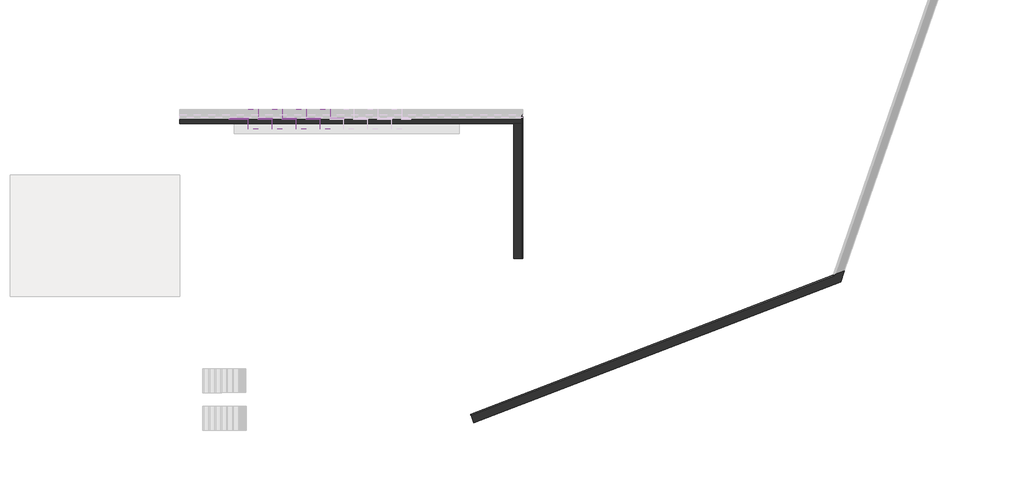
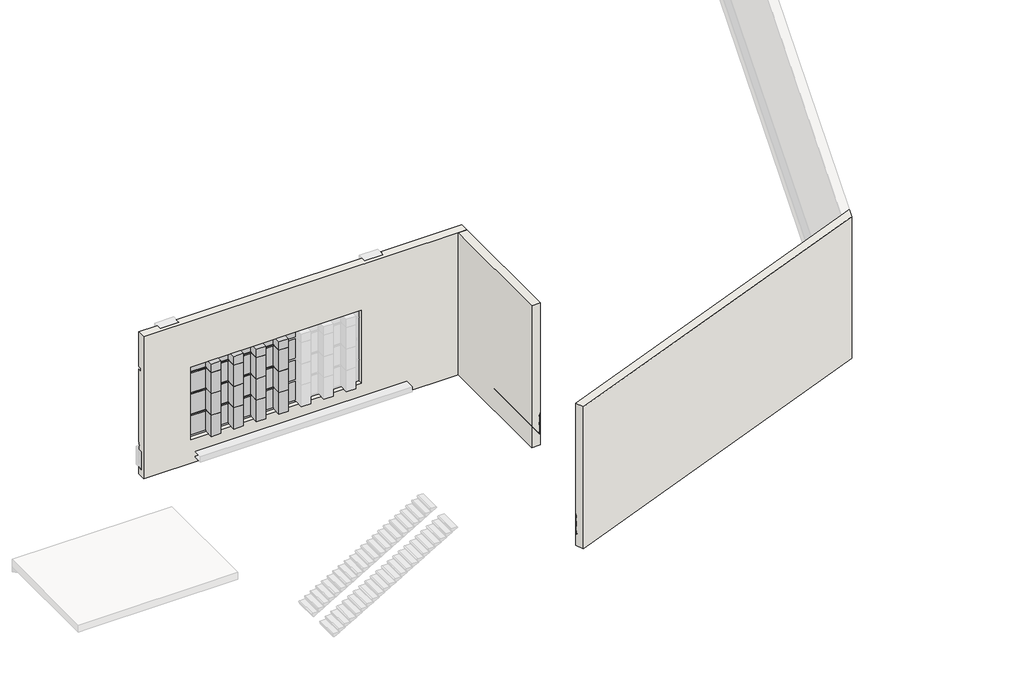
# One storey, part 1 of 3: 41 members, 20 plates, 3 walls, 2 proxies.
"""IFC4 building model written with IfcOpenShell, lengths in millimetres."""

from ifc_helpers import new_model, si_unit, point, frame, frame_2d, origin, place, context, project, spatial, polyline, circle_curve, ellipse_curve, trimmed, segment, composite_curve, outline, extrude, transform, mapped, element, save
from ifc_brep_helpers import plane_surface, cylinder_surface, revolved_surface, advanced_brep
from components import member_019d2a25, member_3923b022, member_2a5ef969, member_fb87e798, member_333024e2, member_bad90bd3, member_0539de59, member_1564d5d8, plate_5ed84ba8, plate_2f013cb5, plate_57f18dda, plate_4c5048e9, plate_0b036903, plate_1d454050

model = new_model("IFC4")

# Units and contexts
model_context = context("Model", 3, world=origin())
ifc_project = project(units=[si_unit("LENGTHUNIT", "METRE", prefix="MILLI")], contexts=[model_context])

# Site, building, storey
site = spatial("IfcSite", under=ifc_project)
building = spatial("IfcBuilding", under=site)
storey = spatial("IfcBuildingStorey", under=building, Name="Уровень 1", Elevation=0.0)

# Proxies
placement = place(None, origin())
element("IfcBuildingElementProxy", 1, Name="Reveals", at=placement, inside=storey, context=model_context, shape_type="AdvancedBrep", body=[
    advanced_brep(
    [(-4891.7017818, 8635.4936017, 1673.1169098), (-4832.5352251, 8694.6601583, 1800.0), (-4832.5352251, 8694.6601583, 600.0), (-4885.7580421, 8641.4373413, 751.8422279), (-4856.5316909, 8670.6636925, 959.7985223), (-4895.5850423, 8631.6103411, 1200.0), (-4858.120661, 8669.0747224, 1466.5729246), (-4891.7017818, 1464.6601583, 1673.1169098), (-4858.120661, 1464.6601583, 1466.5729246), (-4895.5850423, 1464.6601583, 1200.0), (-4856.5316909, 1464.6601583, 959.7985223), (-4885.7580421, 1464.6601583, 751.8422279), (-4832.5352251, 1464.6601583, 600.0), (-4832.5352251, 1464.6601583, 1800.0)],
    [
        (0, 1),
        (1, 2),
        (2, 3, ellipse_curve(frame((-4743.6392974, 8783.5560861, 716.4080451), z_axis=(-0.7071067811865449, 0.7071067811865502, 0.0), x_axis=(0.7071067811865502, 0.7071067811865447, 0.0)), 207.1391751, 146.4695154)),
        (3, 4),
        (4, 5),
        (5, 6),
        (6, 0),
        (7, 8),
        (8, 9),
        (9, 10),
        (10, 11),
        (11, 12, circle_curve(frame((-4743.6392974, 1464.6601583, 716.4080451), z_axis=(0.0, -1.0, 0.0), x_axis=(1.0, 0.0, 0.0)), 146.4695154)),
        (12, 13),
        (13, 7),
        (0, 7),
        (13, 1),
        (12, 2),
        (11, 3),
        (10, 4),
        (9, 5),
        (8, 6),
    ],
    [
        plane_surface(frame((-4832.5352251, 8694.6601583, 1504.8), z_axis=(-0.7071067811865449, 0.7071067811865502, 0.0), x_axis=(-0.7071067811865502, -0.7071067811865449, 0.0))),
        plane_surface(frame((-5432.5352251, 1464.6601583, 1200.0), z_axis=(0.0, -1.0, 0.0), x_axis=(0.0, 0.0, -1.0))),
        plane_surface(frame((-4891.7017818, 8635.4936017, 1673.1169098), z_axis=(-0.9063077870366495, 0.0, 0.42261826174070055), x_axis=(0.0, -1.0, 0.0))),
        plane_surface(frame((-4832.5352251, 8694.6601583, 1800.0), z_axis=(1.0, 0.0, 0.0), x_axis=(0.0, -1.0, 0.0))),
        cylinder_surface(frame((-4743.6392974, 8694.6601583, 716.4080451), z_axis=(0.0, 1.0, 0.0), x_axis=(1.0, 0.0, 0.0)), 146.4695154),
        plane_surface(frame((-4885.7580421, 8641.4373413, 751.8422279), z_axis=(-0.9902680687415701, 0.0, 0.13917310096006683), x_axis=(0.0, -1.0, 0.0))),
        plane_surface(frame((-4856.5316909, 8670.6636925, 959.7985223), z_axis=(-0.9870393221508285, 0.0, -0.16047858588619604), x_axis=(0.0, -1.0, 0.0))),
        plane_surface(frame((-4895.5850423, 8631.6103411, 1200.0), z_axis=(-0.9902680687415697, 0.0, 0.13917310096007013), x_axis=(0.0, -1.0, 0.0))),
        plane_surface(frame((-4858.120661, 8669.0747224, 1466.5729246), z_axis=(-0.987039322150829, 0.0, -0.16047858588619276), x_axis=(0.0, -1.0, 0.0))),
    ],
    [
        (0, [[1, 2, 3, 4, 5, 6, 7]]),
        (1, [[8, 9, 10, 11, 12, 13, 14]]),
        (2, [[-1, 15, -14, 16]]),
        (3, [[-2, -16, -13, 17]]),
        (4, [[-3, -17, -12, 18]]),
        (5, [[-4, -18, -11, 19]]),
        (6, [[-5, -19, -10, 20]]),
        (7, [[-6, -20, -9, 21]]),
        (8, [[-7, -21, -8, -15]]),
    ],
),
])
element("IfcBuildingElementProxy", 2, Name="Reveals", at=placement, inside=storey, context=model_context, shape_type="AdvancedBrep", body=[
    advanced_brep(
    [(-7439.5534189, -6410.9685449, 1673.1169098), (-7460.7568165, -6355.7318057, 1800.0), (-7460.7568165, -6355.7318057, 600.0), (-7441.6834647, -6405.4195859, 751.8422279), (-7452.1572522, -6378.1344365, 959.7985223), (-7438.1617828, -6414.5938809, 1200.0), (-7451.5878163, -6379.6178678, 1466.5729246), (10784.2530434, 584.4953374, 1673.1169098), (10757.5995852, 610.2342828, 1466.5729246), (10787.3352015, 581.518932, 1200.0), (10756.3384139, 611.4521818, 959.7985223), (10779.5354755, 589.0510397, 751.8422279), (10737.2923313, 629.8447699, 600.0), (10737.2923313, 629.8447699, 1800.0)],
    [
        (0, 1),
        (1, 2),
        (2, 3, circle_curve(frame((-7492.6142678, -6272.7403076, 716.4080451), z_axis=(-0.9335804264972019, -0.3583679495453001, 0.0), x_axis=(-0.3583679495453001, 0.9335804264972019, 0.0)), 146.4695154)),
        (3, 4),
        (4, 5),
        (5, 6),
        (6, 0),
        (7, 8),
        (8, 9),
        (9, 10),
        (10, 11),
        (11, 12, ellipse_curve(frame((10666.7353088, 697.9808946, 716.4080451), z_axis=(0.6946583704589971, 0.7193398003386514, 0.0), x_axis=(-0.7193398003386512, 0.6946583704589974, 0.0)), 161.611229, 146.4695154)),
        (12, 13),
        (13, 7),
        (0, 7),
        (13, 1),
        (12, 2),
        (11, 3),
        (10, 4),
        (9, 5),
        (8, 6),
    ],
    [
        plane_surface(frame((-7460.7568165, -6355.7318057, 1800.0), z_axis=(-0.9335804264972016, -0.35836794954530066, 0.0), x_axis=(0.35836794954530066, -0.9335804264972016, 0.0))),
        plane_surface(frame((10737.2923313, 629.8447699, 895.2), z_axis=(0.6946583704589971, 0.7193398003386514, 0.0), x_axis=(-0.7193398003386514, 0.6946583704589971, 0.0))),
        plane_surface(frame((-7439.5534189, -6410.9685449, 1673.1169098), z_axis=(0.3247916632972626, -0.8461112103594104, 0.42261826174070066), x_axis=(0.9335804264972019, 0.3583679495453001, 0.0))),
        plane_surface(frame((-7460.7568165, -6355.7318057, 1800.0), z_axis=(-0.35836794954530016, 0.9335804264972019, 0.0), x_axis=(0.9335804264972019, 0.35836794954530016, 0.0))),
        cylinder_surface(frame((-7492.6142678, -6272.7403076, 716.4080451), z_axis=(-0.9335804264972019, -0.3583679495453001, 0.0), x_axis=(-0.3583679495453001, 0.9335804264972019, 0.0)), 146.4695154),
        plane_surface(frame((-7441.6834647, -6405.4195859, 751.8422279), z_axis=(0.35488033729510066, -0.9244948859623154, 0.13917310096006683), x_axis=(0.9335804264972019, 0.3583679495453, 0.0))),
        plane_surface(frame((-7452.1572522, -6378.1344365, 959.7985223), z_axis=(0.3537232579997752, -0.9214805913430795, -0.16047858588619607), x_axis=(0.9335804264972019, 0.3583679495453, 0.0))),
        plane_surface(frame((-7438.1617828, -6414.5938809, 1200.0), z_axis=(0.3548803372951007, -0.924494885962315, 0.13917310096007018), x_axis=(0.9335804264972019, 0.3583679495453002, 0.0))),
        plane_surface(frame((-7451.5878163, -6379.6178678, 1466.5729246), z_axis=(0.3537232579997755, -0.9214805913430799, -0.16047858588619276), x_axis=(0.9335804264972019, 0.3583679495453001, 0.0))),
    ],
    [
        (0, [[1, 2, 3, 4, 5, 6, 7]]),
        (1, [[8, 9, 10, 11, 12, 13, 14]]),
        (2, [[-1, 15, -14, 16]]),
        (3, [[-2, -16, -13, 17]]),
        (4, [[-3, -17, -12, 18]]),
        (5, [[-4, -18, -11, 19]]),
        (6, [[-5, -19, -10, 20]]),
        (7, [[-6, -20, -9, 21]]),
        (8, [[-7, -21, -8, -15]]),
    ],
),
])

# Members
member_shape = member_019d2a25(model_context)
element("IfcMember", 3, ObjectType="Прямоугольный импост : 50 мм x 65 мм", at=placement, inside=storey, context=model_context, shape_type="MappedRepresentation", body=[
    mapped(member_shape, transform((-19562.5352251, 8464.6601583, 2541.6457957), x_axis=(-1.0, 0.0, 0.0), y_axis=(0.0, -1.0, 0.0), z_axis=(0.0, 0.0, 1.0))),
])
element("IfcMember", 4, ObjectType="Прямоугольный импост : 50 мм x 65 мм", at=placement, inside=storey, context=model_context, shape_type="MappedRepresentation", body=[
    mapped(member_shape, transform((-19562.5352251, 8464.6601583, 3741.6457957), x_axis=(-1.0, 0.0, 0.0), y_axis=(0.0, -1.0, 0.0), z_axis=(0.0, 0.0, 1.0))),
])
element("IfcMember", 5, ObjectType="Прямоугольный импост : 50 мм x 65 мм", at=placement, inside=storey, context=model_context, shape_type="MappedRepresentation", body=[
    mapped(member_shape, transform((-19562.5352251, 8464.6601583, 4941.6457957), x_axis=(-1.0, 0.0, 0.0), y_axis=(0.0, -1.0, 0.0), z_axis=(0.0, 0.0, 1.0))),
])
member_2_shape = member_3923b022(model_context)
element("IfcMember", 6, ObjectType="Прямоугольный импост : 50 мм x 65 мм", at=placement, inside=storey, context=model_context, shape_type="MappedRepresentation", body=[
    mapped(member_2_shape, transform((-19562.5352251, 8464.6601583, 5429.8819034), x_axis=(-1.0, 0.0, 0.0), y_axis=(0.0, -1.0, 0.0), z_axis=(0.0, 0.0, 1.0))),
])
member_3_shape = member_2a5ef969(model_context)
element("IfcMember", 7, ObjectType="Импост круглого сечения : Радиус 25 мм 2", at=placement, inside=storey, context=model_context, shape_type="MappedRepresentation", body=[
    mapped(member_3_shape, transform((-18362.5352248, 8464.6601583, 1341.6457957), x_axis=(1.0, 0.0, 0.0), y_axis=(0.0, -1.0, 0.0), z_axis=(0.0, 0.0, -1.0))),
])
element("IfcMember", 8, ObjectType="Импост круглого сечения : Радиус 25 мм 2", at=placement, inside=storey, context=model_context, shape_type="MappedRepresentation", body=[
    mapped(member_3_shape, transform((-17162.5352248, 8464.6601583, 1341.6457957), x_axis=(1.0, 0.0, 0.0), y_axis=(0.0, -1.0, 0.0), z_axis=(0.0, 0.0, -1.0))),
])
element("IfcMember", 9, ObjectType="Импост круглого сечения : Радиус 25 мм 2", at=placement, inside=storey, context=model_context, shape_type="MappedRepresentation", body=[
    mapped(member_3_shape, transform((-15962.5352248, 8464.6601583, 1341.6457957), x_axis=(1.0, 0.0, 0.0), y_axis=(0.0, -1.0, 0.0), z_axis=(0.0, 0.0, -1.0))),
])
element("IfcMember", 10, ObjectType="Импост круглого сечения : Радиус 25 мм 2", at=placement, inside=storey, context=model_context, shape_type="MappedRepresentation", body=[
    mapped(member_3_shape, transform((-14762.5352248, 8464.6601583, 1341.6457957), x_axis=(1.0, 0.0, 0.0), y_axis=(0.0, -1.0, 0.0), z_axis=(0.0, 0.0, -1.0))),
])
element("IfcMember", 11, ObjectType="Импост круглого сечения : Радиус 25 мм 2", at=placement, inside=storey, context=model_context, shape_type="MappedRepresentation", body=[
    mapped(member_3_shape, transform((-18362.5352248, 8464.6601583, 2541.6457957), x_axis=(1.0, 0.0, 0.0), y_axis=(0.0, -1.0, 0.0), z_axis=(0.0, 0.0, -1.0))),
])
element("IfcMember", 12, ObjectType="Импост круглого сечения : Радиус 25 мм 2", at=placement, inside=storey, context=model_context, shape_type="MappedRepresentation", body=[
    mapped(member_3_shape, transform((-17162.5352248, 8464.6601583, 2541.6457957), x_axis=(1.0, 0.0, 0.0), y_axis=(0.0, -1.0, 0.0), z_axis=(0.0, 0.0, -1.0))),
])
element("IfcMember", 13, ObjectType="Импост круглого сечения : Радиус 25 мм 2", at=placement, inside=storey, context=model_context, shape_type="MappedRepresentation", body=[
    mapped(member_3_shape, transform((-15962.5352248, 8464.6601583, 2541.6457957), x_axis=(1.0, 0.0, 0.0), y_axis=(0.0, -1.0, 0.0), z_axis=(0.0, 0.0, -1.0))),
])
element("IfcMember", 14, ObjectType="Импост круглого сечения : Радиус 25 мм 2", at=placement, inside=storey, context=model_context, shape_type="MappedRepresentation", body=[
    mapped(member_3_shape, transform((-14762.5352248, 8464.6601583, 2541.6457957), x_axis=(1.0, 0.0, 0.0), y_axis=(0.0, -1.0, 0.0), z_axis=(0.0, 0.0, -1.0))),
])
element("IfcMember", 15, ObjectType="Импост круглого сечения : Радиус 25 мм 2", at=placement, inside=storey, context=model_context, shape_type="MappedRepresentation", body=[
    mapped(member_3_shape, transform((-18362.5352248, 8464.6601583, 3741.6457957), x_axis=(1.0, 0.0, 0.0), y_axis=(0.0, -1.0, 0.0), z_axis=(0.0, 0.0, -1.0))),
])
element("IfcMember", 16, ObjectType="Импост круглого сечения : Радиус 25 мм 2", at=placement, inside=storey, context=model_context, shape_type="MappedRepresentation", body=[
    mapped(member_3_shape, transform((-17162.5352248, 8464.6601583, 3741.6457957), x_axis=(1.0, 0.0, 0.0), y_axis=(0.0, -1.0, 0.0), z_axis=(0.0, 0.0, -1.0))),
])
element("IfcMember", 17, ObjectType="Импост круглого сечения : Радиус 25 мм 2", at=placement, inside=storey, context=model_context, shape_type="MappedRepresentation", body=[
    mapped(member_3_shape, transform((-15962.5352248, 8464.6601583, 3741.6457957), x_axis=(1.0, 0.0, 0.0), y_axis=(0.0, -1.0, 0.0), z_axis=(0.0, 0.0, -1.0))),
])
element("IfcMember", 18, ObjectType="Импост круглого сечения : Радиус 25 мм 2", at=placement, inside=storey, context=model_context, shape_type="MappedRepresentation", body=[
    mapped(member_3_shape, transform((-14762.5352248, 8464.6601583, 3741.6457957), x_axis=(1.0, 0.0, 0.0), y_axis=(0.0, -1.0, 0.0), z_axis=(0.0, 0.0, -1.0))),
])
member_4_shape = member_fb87e798(model_context)
element("IfcMember", 19, ObjectType="Импост круглого сечения : Радиус 25 мм 2", at=placement, inside=storey, context=model_context, shape_type="MappedRepresentation", body=[
    mapped(member_4_shape, transform((-18362.5352248, 8464.6601583, 4941.6457957), x_axis=(1.0, 0.0, 0.0), y_axis=(0.0, -1.0, 0.0), z_axis=(0.0, 0.0, -1.0))),
])
element("IfcMember", 20, ObjectType="Импост круглого сечения : Радиус 25 мм 2", at=placement, inside=storey, context=model_context, shape_type="MappedRepresentation", body=[
    mapped(member_4_shape, transform((-17162.5352248, 8464.6601583, 4941.6457957), x_axis=(1.0, 0.0, 0.0), y_axis=(0.0, -1.0, 0.0), z_axis=(0.0, 0.0, -1.0))),
])
element("IfcMember", 21, ObjectType="Импост круглого сечения : Радиус 25 мм 2", at=placement, inside=storey, context=model_context, shape_type="MappedRepresentation", body=[
    mapped(member_4_shape, transform((-15962.5352248, 8464.6601583, 4941.6457957), x_axis=(1.0, 0.0, 0.0), y_axis=(0.0, -1.0, 0.0), z_axis=(0.0, 0.0, -1.0))),
])
element("IfcMember", 22, ObjectType="Импост круглого сечения : Радиус 25 мм 2", at=placement, inside=storey, context=model_context, shape_type="MappedRepresentation", body=[
    mapped(member_4_shape, transform((-14762.5352248, 8464.6601583, 4941.6457957), x_axis=(1.0, 0.0, 0.0), y_axis=(0.0, -1.0, 0.0), z_axis=(0.0, 0.0, -1.0))),
])
member_5_shape = member_333024e2(model_context)
element("IfcMember", 23, ObjectType="Импост круглого сечения : Радиус 25 мм", at=placement, inside=storey, context=model_context, shape_type="MappedRepresentation", body=[
    mapped(member_5_shape, transform((-18612.5352248, 8464.6601583, 5429.8819034), x_axis=(0.0, 0.0, 1.0), y_axis=(0.0, -1.0, 0.0), z_axis=(1.0, 0.0, 0.0))),
])
member_6_shape = member_bad90bd3(model_context)
element("IfcMember", 24, ObjectType="Импост круглого сечения : Радиус 25 мм", at=placement, inside=storey, context=model_context, shape_type="MappedRepresentation", body=[
    mapped(member_6_shape, transform((-17412.5352248, 8464.6601583, 5429.8819034), x_axis=(0.0, 0.0, 1.0), y_axis=(0.0, -1.0, 0.0), z_axis=(1.0, 0.0, 0.0))),
])
element("IfcMember", 25, ObjectType="Импост круглого сечения : Радиус 25 мм", at=placement, inside=storey, context=model_context, shape_type="MappedRepresentation", body=[
    mapped(member_6_shape, transform((-16212.5352248, 8464.6601583, 5429.8819034), x_axis=(0.0, 0.0, 1.0), y_axis=(0.0, -1.0, 0.0), z_axis=(1.0, 0.0, 0.0))),
])
element("IfcMember", 26, ObjectType="Импост круглого сечения : Радиус 25 мм", at=placement, inside=storey, context=model_context, shape_type="MappedRepresentation", body=[
    mapped(member_6_shape, transform((-15012.5352248, 8464.6601583, 5429.8819034), x_axis=(0.0, 0.0, 1.0), y_axis=(0.0, -1.0, 0.0), z_axis=(1.0, 0.0, 0.0))),
])
element("IfcMember", 27, ObjectType="Импост круглого сечения : Радиус 25 мм", at=placement, inside=storey, context=model_context, shape_type="MappedRepresentation", body=[
    mapped(member_5_shape, transform((-19512.5352251, 8464.6601583, 1341.6457957), x_axis=(0.0, 0.0, -1.0), y_axis=(0.0, -1.0, 0.0), z_axis=(-1.0, 0.0, 0.0))),
])
element("IfcMember", 28, ObjectType="Импост круглого сечения : Радиус 25 мм", at=placement, inside=storey, context=model_context, shape_type="MappedRepresentation", body=[
    mapped(member_6_shape, transform((-18112.5352248, 8464.6601583, 1341.6457957), x_axis=(0.0, 0.0, -1.0), y_axis=(0.0, -1.0, 0.0), z_axis=(-1.0, 0.0, 0.0))),
])
element("IfcMember", 29, ObjectType="Импост круглого сечения : Радиус 25 мм", at=placement, inside=storey, context=model_context, shape_type="MappedRepresentation", body=[
    mapped(member_6_shape, transform((-16912.5352248, 8464.6601583, 1341.6457957), x_axis=(0.0, 0.0, -1.0), y_axis=(0.0, -1.0, 0.0), z_axis=(-1.0, 0.0, 0.0))),
])
element("IfcMember", 30, ObjectType="Импост круглого сечения : Радиус 25 мм", at=placement, inside=storey, context=model_context, shape_type="MappedRepresentation", body=[
    mapped(member_6_shape, transform((-15712.5352248, 8464.6601583, 1341.6457957), x_axis=(0.0, 0.0, -1.0), y_axis=(0.0, -1.0, 0.0), z_axis=(-1.0, 0.0, 0.0))),
])
element("IfcMember", 31, ObjectType="Импост круглого сечения : Радиус 25 мм", at=placement, inside=storey, context=model_context, shape_type="MappedRepresentation", body=[
    mapped(member_6_shape, transform((-14512.5352248, 8464.6601583, 1341.6457957), x_axis=(0.0, 0.0, -1.0), y_axis=(0.0, -1.0, 0.0), z_axis=(-1.0, 0.0, 0.0))),
])
member_7_shape = member_0539de59(model_context)
element("IfcMember", 32, ObjectType="Прямоугольный импост : 50 мм x 65 мм", at=placement, inside=storey, context=model_context, shape_type="MappedRepresentation", body=[
    mapped(member_7_shape, transform((-18612.5352248, 8464.6601583, 2541.6457957), x_axis=(0.0, 0.0, 1.0), y_axis=(0.0, -1.0, 0.0), z_axis=(1.0, 0.0, 0.0))),
])
element("IfcMember", 33, ObjectType="Прямоугольный импост : 50 мм x 65 мм", at=placement, inside=storey, context=model_context, shape_type="MappedRepresentation", body=[
    mapped(member_7_shape, transform((-18612.5352248, 8464.6601583, 3741.6457957), x_axis=(0.0, 0.0, 1.0), y_axis=(0.0, -1.0, 0.0), z_axis=(1.0, 0.0, 0.0))),
])
element("IfcMember", 34, ObjectType="Прямоугольный импост : 50 мм x 65 мм", at=placement, inside=storey, context=model_context, shape_type="MappedRepresentation", body=[
    mapped(member_7_shape, transform((-18612.5352248, 8464.6601583, 4941.6457957), x_axis=(0.0, 0.0, 1.0), y_axis=(0.0, -1.0, 0.0), z_axis=(1.0, 0.0, 0.0))),
])
member_8_shape = member_1564d5d8(model_context)
element("IfcMember", 35, ObjectType="Прямоугольный импост : 50 мм x 65 мм", at=placement, inside=storey, context=model_context, shape_type="MappedRepresentation", body=[
    mapped(member_8_shape, transform((-17412.5352248, 8464.6601583, 2541.6457957), x_axis=(0.0, 0.0, 1.0), y_axis=(0.0, -1.0, 0.0), z_axis=(1.0, 0.0, 0.0))),
])
element("IfcMember", 36, ObjectType="Прямоугольный импост : 50 мм x 65 мм", at=placement, inside=storey, context=model_context, shape_type="MappedRepresentation", body=[
    mapped(member_8_shape, transform((-16212.5352248, 8464.6601583, 2541.6457957), x_axis=(0.0, 0.0, 1.0), y_axis=(0.0, -1.0, 0.0), z_axis=(1.0, 0.0, 0.0))),
])
element("IfcMember", 37, ObjectType="Прямоугольный импост : 50 мм x 65 мм", at=placement, inside=storey, context=model_context, shape_type="MappedRepresentation", body=[
    mapped(member_8_shape, transform((-15012.5352248, 8464.6601583, 2541.6457957), x_axis=(0.0, 0.0, 1.0), y_axis=(0.0, -1.0, 0.0), z_axis=(1.0, 0.0, 0.0))),
])
element("IfcMember", 38, ObjectType="Прямоугольный импост : 50 мм x 65 мм", at=placement, inside=storey, context=model_context, shape_type="MappedRepresentation", body=[
    mapped(member_8_shape, transform((-17412.5352248, 8464.6601583, 3741.6457957), x_axis=(0.0, 0.0, 1.0), y_axis=(0.0, -1.0, 0.0), z_axis=(1.0, 0.0, 0.0))),
])
element("IfcMember", 39, ObjectType="Прямоугольный импост : 50 мм x 65 мм", at=placement, inside=storey, context=model_context, shape_type="MappedRepresentation", body=[
    mapped(member_8_shape, transform((-16212.5352248, 8464.6601583, 3741.6457957), x_axis=(0.0, 0.0, 1.0), y_axis=(0.0, -1.0, 0.0), z_axis=(1.0, 0.0, 0.0))),
])
element("IfcMember", 40, ObjectType="Прямоугольный импост : 50 мм x 65 мм", at=placement, inside=storey, context=model_context, shape_type="MappedRepresentation", body=[
    mapped(member_8_shape, transform((-15012.5352248, 8464.6601583, 3741.6457957), x_axis=(0.0, 0.0, 1.0), y_axis=(0.0, -1.0, 0.0), z_axis=(1.0, 0.0, 0.0))),
])
element("IfcMember", 41, ObjectType="Прямоугольный импост : 50 мм x 65 мм", at=placement, inside=storey, context=model_context, shape_type="MappedRepresentation", body=[
    mapped(member_8_shape, transform((-17412.5352248, 8464.6601583, 4941.6457957), x_axis=(0.0, 0.0, 1.0), y_axis=(0.0, -1.0, 0.0), z_axis=(1.0, 0.0, 0.0))),
])
element("IfcMember", 42, ObjectType="Прямоугольный импост : 50 мм x 65 мм", at=placement, inside=storey, context=model_context, shape_type="MappedRepresentation", body=[
    mapped(member_8_shape, transform((-16212.5352248, 8464.6601583, 4941.6457957), x_axis=(0.0, 0.0, 1.0), y_axis=(0.0, -1.0, 0.0), z_axis=(1.0, 0.0, 0.0))),
])
element("IfcMember", 43, ObjectType="Прямоугольный импост : 50 мм x 65 мм", at=placement, inside=storey, context=model_context, shape_type="MappedRepresentation", body=[
    mapped(member_8_shape, transform((-15012.5352248, 8464.6601583, 4941.6457957), x_axis=(0.0, 0.0, 1.0), y_axis=(0.0, -1.0, 0.0), z_axis=(1.0, 0.0, 0.0))),
])

# Plates
plate_shape = plate_5ed84ba8(model_context)
element("IfcPlate", 44, ObjectType="Системная панель : С остеклением", at=placement, inside=storey, context=model_context, shape_type="MappedRepresentation", body=[
    mapped(plate_shape, transform((-19062.535225, 8464.6601583, 1341.6457957), x_axis=(1.0, 0.0, 0.0), y_axis=(0.0, 1.0, 0.0), z_axis=(0.0, 0.0, 1.0))),
])
plate_2_shape = plate_2f013cb5(model_context)
element("IfcPlate", 45, ObjectType="Системная панель : С остеклением", at=placement, inside=storey, context=model_context, shape_type="MappedRepresentation", body=[
    mapped(plate_2_shape, transform((-17762.5352248, 8464.6601583, 1341.6457957), x_axis=(1.0, 0.0, 0.0), y_axis=(0.0, 1.0, 0.0), z_axis=(0.0, 0.0, 1.0))),
])
element("IfcPlate", 46, ObjectType="Системная панель : С остеклением", at=placement, inside=storey, context=model_context, shape_type="MappedRepresentation", body=[
    mapped(plate_2_shape, transform((-16562.5352248, 8464.6601583, 1341.6457957), x_axis=(1.0, 0.0, 0.0), y_axis=(0.0, 1.0, 0.0), z_axis=(0.0, 0.0, 1.0))),
])
element("IfcPlate", 47, ObjectType="Системная панель : С остеклением", at=placement, inside=storey, context=model_context, shape_type="MappedRepresentation", body=[
    mapped(plate_2_shape, transform((-15362.5352248, 8464.6601583, 1341.6457957), x_axis=(1.0, 0.0, 0.0), y_axis=(0.0, 1.0, 0.0), z_axis=(0.0, 0.0, 1.0))),
])
element("IfcPlate", 48, ObjectType="Системная панель : С остеклением", at=placement, inside=storey, context=model_context, shape_type="MappedRepresentation", body=[
    mapped(plate_2_shape, transform((-14162.5352248, 8464.6601583, 1341.6457957), x_axis=(1.0, 0.0, 0.0), y_axis=(0.0, 1.0, 0.0), z_axis=(0.0, 0.0, 1.0))),
])
plate_3_shape = plate_57f18dda(model_context)
element("IfcPlate", 49, ObjectType="Системная панель : С остеклением", at=placement, inside=storey, context=model_context, shape_type="MappedRepresentation", body=[
    mapped(plate_3_shape, transform((-19062.535225, 8464.6601583, 2566.6457957), x_axis=(1.0, 0.0, 0.0), y_axis=(0.0, 1.0, 0.0), z_axis=(0.0, 0.0, 1.0))),
])
element("IfcPlate", 50, ObjectType="Системная панель : С остеклением", at=placement, inside=storey, context=model_context, shape_type="MappedRepresentation", body=[
    mapped(plate_3_shape, transform((-19062.535225, 8464.6601583, 3766.6457957), x_axis=(1.0, 0.0, 0.0), y_axis=(0.0, 1.0, 0.0), z_axis=(0.0, 0.0, 1.0))),
])
plate_4_shape = plate_4c5048e9(model_context)
element("IfcPlate", 51, ObjectType="Системная панель : С остеклением", at=placement, inside=storey, context=model_context, shape_type="MappedRepresentation", body=[
    mapped(plate_4_shape, transform((-17762.5352248, 8464.6601583, 2566.6457957), x_axis=(1.0, 0.0, 0.0), y_axis=(0.0, 1.0, 0.0), z_axis=(0.0, 0.0, 1.0))),
])
element("IfcPlate", 52, ObjectType="Системная панель : С остеклением", at=placement, inside=storey, context=model_context, shape_type="MappedRepresentation", body=[
    mapped(plate_4_shape, transform((-16562.5352248, 8464.6601583, 2566.6457957), x_axis=(1.0, 0.0, 0.0), y_axis=(0.0, 1.0, 0.0), z_axis=(0.0, 0.0, 1.0))),
])
element("IfcPlate", 53, ObjectType="Системная панель : С остеклением", at=placement, inside=storey, context=model_context, shape_type="MappedRepresentation", body=[
    mapped(plate_4_shape, transform((-15362.5352248, 8464.6601583, 2566.6457957), x_axis=(1.0, 0.0, 0.0), y_axis=(0.0, 1.0, 0.0), z_axis=(0.0, 0.0, 1.0))),
])
element("IfcPlate", 54, ObjectType="Системная панель : С остеклением", at=placement, inside=storey, context=model_context, shape_type="MappedRepresentation", body=[
    mapped(plate_4_shape, transform((-14162.5352248, 8464.6601583, 2566.6457957), x_axis=(1.0, 0.0, 0.0), y_axis=(0.0, 1.0, 0.0), z_axis=(0.0, 0.0, 1.0))),
])
element("IfcPlate", 55, ObjectType="Системная панель : С остеклением", at=placement, inside=storey, context=model_context, shape_type="MappedRepresentation", body=[
    mapped(plate_4_shape, transform((-17762.5352248, 8464.6601583, 3766.6457957), x_axis=(1.0, 0.0, 0.0), y_axis=(0.0, 1.0, 0.0), z_axis=(0.0, 0.0, 1.0))),
])
element("IfcPlate", 56, ObjectType="Системная панель : С остеклением", at=placement, inside=storey, context=model_context, shape_type="MappedRepresentation", body=[
    mapped(plate_4_shape, transform((-16562.5352248, 8464.6601583, 3766.6457957), x_axis=(1.0, 0.0, 0.0), y_axis=(0.0, 1.0, 0.0), z_axis=(0.0, 0.0, 1.0))),
])
element("IfcPlate", 57, ObjectType="Системная панель : С остеклением", at=placement, inside=storey, context=model_context, shape_type="MappedRepresentation", body=[
    mapped(plate_4_shape, transform((-15362.5352248, 8464.6601583, 3766.6457957), x_axis=(1.0, 0.0, 0.0), y_axis=(0.0, 1.0, 0.0), z_axis=(0.0, 0.0, 1.0))),
])
element("IfcPlate", 58, ObjectType="Системная панель : С остеклением", at=placement, inside=storey, context=model_context, shape_type="MappedRepresentation", body=[
    mapped(plate_4_shape, transform((-14162.5352248, 8464.6601583, 3766.6457957), x_axis=(1.0, 0.0, 0.0), y_axis=(0.0, 1.0, 0.0), z_axis=(0.0, 0.0, 1.0))),
])
plate_5_shape = plate_0b036903(model_context)
element("IfcPlate", 59, ObjectType="Системная панель : С остеклением", at=placement, inside=storey, context=model_context, shape_type="MappedRepresentation", body=[
    mapped(plate_5_shape, transform((-19062.535225, 8464.6601583, 4966.6457957), x_axis=(1.0, 0.0, 0.0), y_axis=(0.0, 1.0, 0.0), z_axis=(0.0, 0.0, 1.0))),
])
plate_6_shape = plate_1d454050(model_context)
element("IfcPlate", 60, ObjectType="Системная панель : С остеклением", at=placement, inside=storey, context=model_context, shape_type="MappedRepresentation", body=[
    mapped(plate_6_shape, transform((-17762.5352248, 8464.6601583, 4966.6457957), x_axis=(1.0, 0.0, 0.0), y_axis=(0.0, 1.0, 0.0), z_axis=(0.0, 0.0, 1.0))),
])
element("IfcPlate", 61, ObjectType="Системная панель : С остеклением", at=placement, inside=storey, context=model_context, shape_type="MappedRepresentation", body=[
    mapped(plate_6_shape, transform((-16562.5352248, 8464.6601583, 4966.6457957), x_axis=(1.0, 0.0, 0.0), y_axis=(0.0, 1.0, 0.0), z_axis=(0.0, 0.0, 1.0))),
])
element("IfcPlate", 62, ObjectType="Системная панель : С остеклением", at=placement, inside=storey, context=model_context, shape_type="MappedRepresentation", body=[
    mapped(plate_6_shape, transform((-15362.5352248, 8464.6601583, 4966.6457957), x_axis=(1.0, 0.0, 0.0), y_axis=(0.0, 1.0, 0.0), z_axis=(0.0, 0.0, 1.0))),
])
element("IfcPlate", 63, ObjectType="Системная панель : С остеклением", at=placement, inside=storey, context=model_context, shape_type="MappedRepresentation", body=[
    mapped(plate_6_shape, transform((-14162.5352248, 8464.6601583, 4966.6457957), x_axis=(1.0, 0.0, 0.0), y_axis=(0.0, 1.0, 0.0), z_axis=(0.0, 0.0, 1.0))),
])

# Walls
element("IfcWall", 64, ObjectType="Наружный - Блок на металлической обрешетке", at=placement, inside=storey, context=model_context, shape_type="AdvancedBrep", body=[
    advanced_brep(
    [(-22062.5352251, 8234.6601583, 0.0), (-5292.5352251, 8234.6601583, 0.0), (-4832.5352251, 8234.6601583, 0.0), (-4832.5352251, 8234.6601583, 600.0), (-4885.7580421, 8234.6601583, 751.8422279), (-4856.5316909, 8234.6601583, 959.7985223), (-4895.5850423, 8234.6601583, 1200.0), (-4858.120661, 8234.6601583, 1466.5729246), (-4891.7017818, 8234.6601583, 1673.1169098), (-4832.5352251, 8234.6601583, 1800.0), (-4832.5352251, 8234.6601583, 8000.0), (-5292.5352251, 8234.6601583, 8000.0), (-22062.5352251, 8234.6601583, 8000.0), (-19562.5352251, 8234.6601583, 1341.6457957), (-19562.5352251, 8234.6601583, 5429.8819034), (-10462.5352251, 8234.6601583, 5429.8819034), (-10462.5352251, 8234.6601583, 1341.6457957), (-10462.5352251, 8694.6601583, 5429.8819034), (-19562.5352251, 8694.6601583, 5429.8819034), (-19562.5352251, 8694.6601583, 1800.0), (-20062.5352251, 8694.6601583, 1800.0), (-20062.5352251, 8694.6601583, 5900.0), (-10162.5352251, 8694.6601583, 5900.0), (-10162.5352251, 8694.6601583, 1800.0), (-10462.5352251, 8694.6601583, 1800.0), (-10162.5352251, 8694.6601583, 6052.4), (-20062.5352251, 8694.6601583, 6052.4), (-20062.5352251, 8694.6601583, 8000.0), (-10162.5352251, 8694.6601583, 8000.0), (-22062.5352251, 8694.6601583, 0.0), (-22062.5352251, 8694.6601583, 400.0), (-21062.5352251, 8694.6601583, 400.0), (-21062.5352251, 8694.6601583, 0.0), (-4832.5352251, 8694.6601583, 400.0), (-4832.5352251, 8694.6601583, 0.0), (-9162.5352251, 8694.6601583, 0.0), (-9162.5352251, 8694.6601583, 400.0), (-9162.5352251, 8694.6601583, 8000.0), (-4832.5352251, 8694.6601583, 8000.0), (-4832.5352251, 8694.6601583, 6052.4), (-9162.5352251, 8694.6601583, 6052.4), (-10162.5352251, 8694.6601583, 400.0), (-10162.5352251, 8694.6601583, 0.0), (-20062.5352251, 8694.6601583, 0.0), (-20062.5352251, 8694.6601583, 400.0), (-22062.5352251, 8694.6601583, 8000.0), (-21062.5352251, 8694.6601583, 8000.0), (-21062.5352251, 8694.6601583, 6052.4), (-22062.5352251, 8694.6601583, 6052.4), (-22062.5352251, 8694.6601583, 5900.0), (-21062.5352251, 8694.6601583, 5900.0), (-21062.5352251, 8694.6601583, 1800.0), (-22062.5352251, 8694.6601583, 1800.0), (-9162.5352251, 8694.6601583, 5900.0), (-4832.5352251, 8694.6601583, 5900.0), (-4832.5352251, 8694.6601583, 1800.0), (-9162.5352251, 8694.6601583, 1800.0), (-21062.5352251, 8444.6601583, 0.0), (-20062.5352251, 8444.6601583, 0.0), (-10162.5352251, 8444.6601583, 0.0), (-9162.5352251, 8444.6601583, 0.0), (-9162.5352251, 8444.6601583, 8000.0), (-10162.5352251, 8444.6601583, 8000.0), (-20062.5352251, 8444.6601583, 8000.0), (-21062.5352251, 8444.6601583, 8000.0), (-22062.5352251, 8542.2601583, 6052.4), (-22062.5352251, 8542.2601583, 5900.0), (-22062.5352251, 8635.4936017, 1673.1169098), (-22062.5352251, 8669.0747224, 1466.5729246), (-22062.5352251, 8659.7185081, 1400.0), (-22062.5352251, 8444.6601583, 1400.0), (-22062.5352251, 8444.6601583, 400.0), (-4832.5352251, 8444.6601583, 400.0), (-4832.5352251, 8444.6601583, 600.0), (-4832.5352251, 8542.2601583, 5900.0), (-4832.5352251, 8542.2601583, 6052.4), (-19562.5352251, 8444.6601583, 1341.6457957), (-19562.5352251, 8444.6601583, 1400.0), (-19562.5352251, 8659.7185081, 1400.0), (-19562.5352251, 8669.0747224, 1466.5729246), (-19562.5352251, 8635.4936017, 1673.1169098), (-10462.5352251, 8635.4936017, 1673.1169098), (-10462.5352251, 8669.0747224, 1466.5729246), (-10462.5352251, 8659.7185081, 1400.0), (-10462.5352251, 8444.6601583, 1400.0), (-10462.5352251, 8444.6601583, 1341.6457957), (-21062.5352251, 8444.6601583, 1400.0), (-20062.5352251, 8444.6601583, 1400.0), (-10162.5352251, 8444.6601583, 1400.0), (-9162.5352251, 8444.6601583, 1400.0), (-4867.4768754, 8444.6601583, 1400.0), (-4895.5850423, 8444.6601583, 1200.0), (-4856.5316909, 8444.6601583, 959.7985223), (-4885.7580421, 8444.6601583, 751.8422279), (-9162.5352251, 8444.6601583, 400.0), (-10162.5352251, 8444.6601583, 400.0), (-20062.5352251, 8444.6601583, 400.0), (-21062.5352251, 8444.6601583, 400.0), (-20062.5352251, 8542.2601583, 5900.0), (-10162.5352251, 8542.2601583, 5900.0), (-21062.5352251, 8542.2601583, 5900.0), (-9162.5352251, 8542.2601583, 5900.0), (-21062.5352251, 8542.2601583, 6052.4), (-9162.5352251, 8542.2601583, 6052.4), (-20062.5352251, 8542.2601583, 6052.4), (-10162.5352251, 8542.2601583, 6052.4), (-4891.7017818, 8635.4936017, 1673.1169098), (-9162.5352251, 8635.4936017, 1673.1169098), (-10162.5352251, 8635.4936017, 1673.1169098), (-20062.5352251, 8635.4936017, 1673.1169098), (-21062.5352251, 8635.4936017, 1673.1169098), (-10162.5352251, 8669.0747224, 1466.5729246), (-10162.5352251, 8659.7185081, 1400.0), (-20062.5352251, 8669.0747224, 1466.5729246), (-20062.5352251, 8659.7185081, 1400.0), (-21062.5352251, 8669.0747224, 1466.5729246), (-21062.5352251, 8659.7185081, 1400.0), (-4858.120661, 8669.0747224, 1466.5729246), (-4867.4768754, 8659.7185081, 1400.0), (-9162.5352251, 8659.7185081, 1400.0), (-9162.5352251, 8669.0747224, 1466.5729246)],
    [
        (0, 1),
        (1, 2),
        (2, 3),
        (3, 4, circle_curve(frame((-4743.6392974, 8234.6601583, 716.4080451), z_axis=(0.0, 1.0, 0.0), x_axis=(1.0, 0.0, 0.0)), 146.4695154)),
        (4, 5),
        (5, 6),
        (6, 7),
        (7, 8),
        (8, 9),
        (9, 10),
        (10, 11),
        (11, 12),
        (12, 0),
        (13, 14),
        (14, 15),
        (15, 16),
        (16, 13),
        (17, 18),
        (18, 19),
        (19, 20),
        (20, 21),
        (21, 22),
        (22, 23),
        (23, 24),
        (24, 17),
        (25, 26),
        (26, 27),
        (27, 28),
        (28, 25),
        (29, 30),
        (30, 31),
        (31, 32),
        (32, 29),
        (33, 34),
        (34, 35),
        (35, 36),
        (36, 33),
        (37, 38),
        (38, 39),
        (39, 40),
        (40, 37),
        (41, 42),
        (42, 43),
        (43, 44),
        (44, 41),
        (45, 46),
        (46, 47),
        (47, 48),
        (48, 45),
        (49, 50),
        (50, 51),
        (51, 52),
        (52, 49),
        (53, 54),
        (54, 55),
        (55, 56),
        (56, 53),
        (0, 29),
        (32, 57),
        (57, 58),
        (58, 43),
        (42, 59),
        (59, 60),
        (60, 35),
        (34, 2),
        (10, 38),
        (37, 61),
        (61, 62),
        (62, 28),
        (27, 63),
        (63, 64),
        (64, 46),
        (45, 12),
        (48, 65),
        (65, 66),
        (66, 49),
        (52, 67),
        (67, 68),
        (68, 69),
        (69, 70),
        (70, 71),
        (71, 30),
        (33, 72),
        (72, 73),
        (73, 3),
        (9, 55),
        (54, 74),
        (74, 75),
        (75, 39),
        (18, 14),
        (13, 76),
        (76, 77),
        (77, 78),
        (78, 79),
        (79, 80),
        (80, 19),
        (17, 15),
        (24, 81),
        (81, 82),
        (82, 83),
        (83, 84),
        (84, 85),
        (85, 16),
        (85, 76),
        (70, 86),
        (86, 64),
        (63, 87),
        (87, 77),
        (84, 88),
        (88, 62),
        (61, 89),
        (89, 90),
        (90, 91),
        (91, 92),
        (92, 93),
        (93, 73, circle_curve(frame((-4743.6392974, 8444.6601583, 716.4080451), z_axis=(0.0, -1.0, 0.0), x_axis=(1.0, 0.0, 0.0)), 146.4695154)),
        (72, 94),
        (94, 60),
        (59, 95),
        (95, 96),
        (96, 58),
        (57, 97),
        (97, 71),
        (21, 98),
        (98, 99),
        (99, 22),
        (66, 100),
        (100, 50),
        (53, 101),
        (101, 74),
        (65, 102),
        (102, 100),
        (101, 103),
        (103, 75),
        (98, 104),
        (104, 105),
        (105, 99),
        (25, 105),
        (104, 26),
        (47, 102),
        (103, 40),
        (55, 106),
        (106, 107),
        (107, 56),
        (108, 81),
        (23, 108),
        (80, 109),
        (109, 20),
        (110, 67),
        (51, 110),
        (82, 111),
        (111, 112),
        (112, 83),
        (113, 79),
        (78, 114),
        (114, 113),
        (68, 115),
        (115, 116),
        (116, 69),
        (117, 118),
        (118, 119),
        (119, 120),
        (120, 117),
        (106, 117),
        (120, 107),
        (108, 111),
        (113, 109),
        (110, 115),
        (8, 106),
        (93, 4),
        (92, 5),
        (91, 6),
        (117, 7),
        (90, 118),
        (97, 31),
        (36, 94),
        (95, 41),
        (44, 96),
        (112, 88),
        (87, 114),
        (116, 86),
        (89, 119),
    ],
    [
        plane_surface(frame((-22062.5352251, 8234.6601583, 0.0), z_axis=(0.0, -1.0, 0.0), x_axis=(1.0, 0.0, 0.0))),
        plane_surface(frame((-22062.5352251, 8694.6601583, 0.0), z_axis=(0.0, 1.0, 0.0), x_axis=(-1.0, 0.0, 0.0))),
        plane_surface(frame((-22062.5352251, 8234.6601583, 0.0), z_axis=(0.0, 0.0, -1.0), x_axis=(0.0, 1.0, 0.0))),
        plane_surface(frame((-5062.5352251, 8234.6601583, 8000.0), z_axis=(0.0, 0.0, 1.0), x_axis=(0.0, 1.0, 0.0))),
        plane_surface(frame((-22062.5352251, 8234.6601583, 8000.0), z_axis=(-1.0, 0.0, 0.0), x_axis=(0.0, 1.0, 0.0))),
        plane_surface(frame((-4832.5352251, 8464.6601583, 0.0), z_axis=(1.0, 0.0, 0.0), x_axis=(0.0, 1.0, 0.0))),
        plane_surface(frame((-19562.5352251, 8847.0601583, 1341.6457957), z_axis=(1.0, 0.0, 0.0), x_axis=(0.0, -1.0, 0.0))),
        plane_surface(frame((-19562.5352251, 8847.0601583, 5429.8819034), z_axis=(0.0, 0.0, -1.0), x_axis=(0.0, -1.0, 0.0))),
        plane_surface(frame((-10462.5352251, 8847.0601583, 5429.8819034), z_axis=(-1.0, 0.0, 0.0), x_axis=(0.0, -1.0, 0.0))),
        plane_surface(frame((-10462.5352251, 8847.0601583, 1341.6457957), z_axis=(0.0, 0.0, 1.0), x_axis=(0.0, -1.0, 0.0))),
        plane_surface(frame((-22062.5352251, 8444.6601583, 400.0), z_axis=(0.0, 1.0, 0.0), x_axis=(1.0, 0.0, 0.0))),
        plane_surface(frame((-22062.5352251, 8694.6601583, 5900.0), z_axis=(0.0, 0.0, 1.0), x_axis=(1.0, 0.0, 0.0))),
        plane_surface(frame((-22062.5352251, 8542.2601583, 5900.0), z_axis=(0.0, 1.0, 0.0), x_axis=(1.0, 0.0, 0.0))),
        plane_surface(frame((-22062.5352251, 8542.2601583, 6052.4), z_axis=(0.0, 0.0, -1.0), x_axis=(1.0, 0.0, 0.0))),
        plane_surface(frame((-22062.5352251, 8635.4936017, 1673.1169098), z_axis=(0.0, 0.9063077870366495, -0.42261826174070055), x_axis=(1.0, 0.0, 0.0))),
        plane_surface(frame((-22062.5352251, 8631.6103411, 1200.0), z_axis=(0.0, 0.9902680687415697, -0.13917310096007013), x_axis=(1.0, 0.0, 0.0))),
        plane_surface(frame((-22062.5352251, 8669.0747224, 1466.5729246), z_axis=(0.0, 0.987039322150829, 0.16047858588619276), x_axis=(1.0, 0.0, 0.0))),
        plane_surface(frame((-4891.7017818, 8635.4936017, 1673.1169098), z_axis=(0.9063077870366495, 0.0, -0.42261826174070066), x_axis=(0.0, -1.0, 0.0))),
        revolved_surface(polyline([(-4597.169782, 8444.6601583, 716.4080451), (-4597.169782, 8234.6601583, 716.4080451)]), (-4743.6392974, 8694.6601583, 716.4080451), (0.0, 1.0, 0.0)),
        plane_surface(frame((-4885.7580421, 8641.4373413, 751.8422279), z_axis=(0.9902680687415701, 0.0, -0.13917310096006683), x_axis=(0.0, -1.0, 0.0))),
        plane_surface(frame((-4856.5316909, 8670.6636925, 959.7985223), z_axis=(0.9870393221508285, 0.0, 0.1604785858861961), x_axis=(0.0, -1.0, 0.0))),
        plane_surface(frame((-4895.5850423, 8631.6103411, 1200.0), z_axis=(0.9902680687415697, 0.0, -0.13917310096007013), x_axis=(0.0, -1.0, 0.0))),
        plane_surface(frame((-4858.120661, 8669.0747224, 1466.5729246), z_axis=(0.987039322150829, 0.0, 0.16047858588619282), x_axis=(0.0, -1.0, 0.0))),
        plane_surface(frame((-22062.5352251, 8944.6601583, 400.0), z_axis=(0.0, 0.0, 1.0), x_axis=(1.0, 0.0, 0.0))),
        plane_surface(frame((-22062.5352251, 8444.6601583, 1400.0), z_axis=(0.0, 0.0, -1.0), x_axis=(1.0, 0.0, 0.0))),
        plane_surface(frame((-9162.5352251, 8944.6601583, 0.0), z_axis=(-1.0, 0.0, 0.0), x_axis=(0.0, 0.0, 1.0))),
        plane_surface(frame((-10162.5352251, 8444.6601583, 0.0), z_axis=(1.0, 0.0, 0.0), x_axis=(0.0, 0.0, 1.0))),
        plane_surface(frame((-20062.5352251, 8944.6601583, 0.0), z_axis=(-1.0, 0.0, 0.0), x_axis=(0.0, 0.0, 1.0))),
        plane_surface(frame((-21062.5352251, 8444.6601583, 0.0), z_axis=(1.0, 0.0, 0.0), x_axis=(0.0, 0.0, 1.0))),
    ],
    [
        (0, [[1, 2, 3, 4, 5, 6, 7, 8, 9, 10, 11, 12, 13], [14, 15, 16, 17]]),
        (1, [[18, 19, 20, 21, 22, 23, 24, 25]]),
        (1, [[26, 27, 28, 29]]),
        (1, [[30, 31, 32, 33]]),
        (1, [[34, 35, 36, 37]]),
        (1, [[38, 39, 40, 41]]),
        (1, [[42, 43, 44, 45]]),
        (1, [[46, 47, 48, 49]]),
        (1, [[50, 51, 52, 53]]),
        (1, [[54, 55, 56, 57]]),
        (2, [[-2, -1, 58, -33, 59, 60, 61, -43, 62, 63, 64, -35, 65]]),
        (3, [[-12, -11, 66, -38, 67, 68, 69, -28, 70, 71, 72, -46, 73]]),
        (4, [[-13, -73, -49, 74, 75, 76, -53, 77, 78, 79, 80, 81, 82, -30, -58]]),
        (5, [[-65, -34, 83, 84, 85, -3]]),
        (5, [[-66, -10, 86, -55, 87, 88, 89, -39]]),
        (6, [[90, -14, 91, 92, 93, 94, 95, 96, -19]]),
        (7, [[-90, -18, 97, -15]]),
        (8, [[-97, -25, 98, 99, 100, 101, 102, 103, -16]]),
        (9, [[-17, -103, 104, -91]]),
        (10, [[-81, 105, 106, -71, 107, 108, -92, -104, -102, 109, 110, -68, 111, 112, 113, 114, 115, 116, -84, 117, 118, -63, 119, 120, 121, -60, 122, 123]]),
        (11, [[-22, 124, 125, 126]]),
        (11, [[-76, 127, 128, -50]]),
        (11, [[-87, -54, 129, 130]]),
        (12, [[-75, 131, 132, -127]]),
        (12, [[-88, -130, 133, 134]]),
        (12, [[-125, 135, 136, 137]]),
        (13, [[-26, 138, -136, 139]]),
        (13, [[-74, -48, 140, -131]]),
        (13, [[-89, -134, 141, -40]]),
        (14, [[142, 143, 144, -56]]),
        (14, [[145, -98, -24, 146]]),
        (14, [[147, 148, -20, -96]]),
        (14, [[149, -77, -52, 150]]),
        (15, [[151, 152, 153, -100]]),
        (15, [[154, -94, 155, 156]]),
        (15, [[157, 158, 159, -79]]),
        (15, [[160, 161, 162, 163]]),
        (16, [[164, -163, 165, -143]]),
        (16, [[-145, 166, -151, -99]]),
        (16, [[-147, -95, -154, 167]]),
        (16, [[-149, 168, -157, -78]]),
        (17, [[-142, -86, -9, 169]]),
        (18, [[170, -4, -85, -116]]),
        (19, [[-170, -115, 171, -5]]),
        (20, [[-171, -114, 172, -6]]),
        (21, [[-160, 173, -7, -172, -113, 174]]),
        (22, [[-164, -169, -8, -173]]),
        (23, [[-82, -123, 175, -31]]),
        (23, [[-83, -37, 176, -117]]),
        (23, [[177, -45, 178, -120]]),
        (24, [[-109, -101, -153, 179]]),
        (24, [[-108, 180, -155, -93]]),
        (24, [[-105, -80, -159, 181]]),
        (24, [[-112, 182, -161, -174]]),
        (25, [[-118, -176, -36, -64]]),
        (25, [[-111, -67, -41, -141, -133, -129, -57, -144, -165, -162, -182]]),
        (26, [[-119, -62, -42, -177]]),
        (26, [[-110, -179, -152, -166, -146, -23, -126, -137, -138, -29, -69]]),
        (27, [[-121, -178, -44, -61]]),
        (27, [[-107, -70, -27, -139, -135, -124, -21, -148, -167, -156, -180]]),
        (28, [[-122, -59, -32, -175]]),
        (28, [[-106, -181, -158, -168, -150, -51, -128, -132, -140, -47, -72]]),
    ],
),
])
element("IfcWall", 65, ObjectType="Наружный - Блок на металлической обрешетке", at=placement, inside=storey, context=model_context, shape_type="SweptSolid", body=[
    extrude(outline(composite_curve([segment(polyline([(8000.0, -5292.5352251), (0.0, -5292.5352251), (0.0, -4832.5352251), (600.0, -4832.5352251)]), True, "CONTINUOUS"), segment(trimmed(circle_curve(frame_2d((716.4080451, -4743.6392974)), 146.4695154), [point((600.0, -4832.5352251))], [point((751.8422279, -4885.7580421))], True, "CARTESIAN"), True, "CONTINUOUS"), segment(polyline([(751.8422279, -4885.7580421), (959.7985223, -4856.5316909), (1200.0, -4895.5850423), (1466.5729246, -4858.120661), (1673.1169098, -4891.7017818), (1800.0, -4832.5352251), (8000.0, -4832.5352251), (8000.0, -5292.5352251)]), True, "CONTINUOUS")], self_intersect=False)), frame((0.0, 1464.6601583, 0.0), z_axis=(0.0, 1.0, 0.0), x_axis=(0.0, 0.0, 1.0)), (0.0, 0.0, 1.0), 6770.0),
])
element("IfcWall", 66, ObjectType="Наружный - Блок на металлической обрешетке", at=placement, inside=storey, context=model_context, shape_type="AdvancedBrep", body=[
    advanced_brep(
    [(-7295.9075597, -6785.1788019, 0.0), (11102.3960112, 277.2682446, 0.0), (11102.3960112, 277.2682446, 8000.0), (-7295.9075597, -6785.1788019, 8000.0), (11297.8955705, 845.0401914, 0.0), (10737.2923313, 629.8447699, 0.0), (-7460.7568165, -6355.7318057, 0.0), (-7460.7568165, -6355.7318057, 600.0), (10737.2923313, 629.8447699, 600.0), (10802.1551218, 654.7432624, 751.8422279), (10766.5368889, 641.0707038, 959.7985223), (10814.1313134, 659.3404917, 1200.0), (10768.4733709, 641.8140496, 1466.5729246), (10809.3987733, 657.5238397, 1673.1169098), (10737.2923313, 629.8447699, 1800.0), (-7460.7568165, -6355.7318057, 1800.0), (-7460.7568165, -6355.7318057, 8000.0), (10737.2923313, 629.8447699, 8000.0), (11297.8955705, 845.0401914, 8000.0), (-7439.5534189, -6410.9685449, 1673.1169098), (-7451.5878163, -6379.6178678, 1466.5729246), (-7438.1617828, -6414.5938809, 1200.0), (-7452.1572522, -6378.1344365, 959.7985223), (-7441.6834647, -6405.4195859, 751.8422279), (10784.2530434, 584.4953374, 1673.1169098), (10779.5354755, 589.0510397, 751.8422279), (10756.3384139, 611.4521818, 959.7985223), (10787.3352015, 581.518932, 1200.0), (10757.5995852, 610.2342828, 1466.5729246)],
    [
        (0, 1),
        (1, 2),
        (2, 3),
        (3, 0),
        (4, 5),
        (5, 6),
        (6, 7),
        (7, 8),
        (8, 9, ellipse_curve(frame((10628.9546247, 588.2578207, 716.4080451), z_axis=(0.3583679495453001, -0.9335804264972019, 0.0), x_axis=(-0.933580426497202, -0.35836794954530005, 0.0)), 191.202373, 146.4695154)),
        (9, 10),
        (10, 11),
        (11, 12),
        (12, 13),
        (13, 14),
        (14, 15),
        (15, 16),
        (16, 17),
        (17, 18),
        (18, 4),
        (0, 6),
        (4, 1),
        (2, 18),
        (16, 3),
        (15, 19),
        (19, 20),
        (20, 21),
        (21, 22),
        (22, 23),
        (23, 7, circle_curve(frame((-7492.6142678, -6272.7403076, 716.4080451), z_axis=(0.9335804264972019, 0.3583679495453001, 0.0), x_axis=(-0.3583679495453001, 0.9335804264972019, 0.0)), 146.4695154)),
        (24, 19),
        (14, 24),
        (25, 8, ellipse_curve(frame((10666.7353088, 697.9808946, 716.4080451), z_axis=(0.6946583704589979, 0.7193398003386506, 0.0), x_axis=(-0.7193398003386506, 0.694658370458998, 0.0)), 161.611229, 146.4695154)),
        (23, 25),
        (22, 26),
        (26, 25),
        (21, 27),
        (27, 26),
        (20, 28),
        (28, 27),
        (24, 28),
        (13, 24),
        (25, 9),
        (26, 10),
        (27, 11),
        (28, 12),
    ],
    [
        plane_surface(frame((-7295.9075597, -6785.1788019, 0.0), z_axis=(0.3583679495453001, -0.9335804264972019, 0.0), x_axis=(0.9335804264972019, 0.3583679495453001, 0.0))),
        plane_surface(frame((-7460.7568165, -6355.7318057, 0.0), z_axis=(-0.3583679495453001, 0.9335804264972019, 0.0), x_axis=(-0.9335804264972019, -0.3583679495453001, 0.0))),
        plane_surface(frame((-7295.9075597, -6785.1788019, 0.0), z_axis=(0.0, 0.0, -1.0), x_axis=(-0.35836794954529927, 0.9335804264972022, 0.0))),
        plane_surface(frame((11002.2687996, 238.8330092, 8000.0), z_axis=(0.0, 0.0, 1.0000000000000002), x_axis=(-0.3583679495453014, 0.9335804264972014, 0.0))),
        plane_surface(frame((-7295.9075597, -6785.1788019, 8000.0), z_axis=(-0.9335804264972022, -0.35836794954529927, 0.0), x_axis=(-0.35836794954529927, 0.9335804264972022, 0.0))),
        plane_surface(frame((-7439.5534189, -6410.9685449, 1673.1169098), z_axis=(-0.3247916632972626, 0.8461112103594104, -0.42261826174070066), x_axis=(0.9335804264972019, 0.3583679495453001, 0.0))),
        revolved_surface(polyline([(-7545.104247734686, -6135.999234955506, 716.4080451), (10678.008738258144, 859.1984467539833, 716.4080451)]), (-7492.6142678, -6272.7403076, 716.4080451), (-0.9335804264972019, -0.3583679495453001, 0.0)),
        plane_surface(frame((-7441.6834647, -6405.4195859, 751.8422279), z_axis=(-0.35488033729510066, 0.9244948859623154, -0.13917310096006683), x_axis=(0.9335804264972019, 0.3583679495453, 0.0))),
        plane_surface(frame((-7452.1572522, -6378.1344365, 959.7985223), z_axis=(-0.3537232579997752, 0.9214805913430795, 0.16047858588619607), x_axis=(0.9335804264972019, 0.3583679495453, 0.0))),
        plane_surface(frame((-7438.1617828, -6414.5938809, 1200.0), z_axis=(-0.35488033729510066, 0.924494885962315, -0.13917310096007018), x_axis=(0.9335804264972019, 0.35836794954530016, 0.0))),
        plane_surface(frame((-7451.5878163, -6379.6178678, 1466.5729246), z_axis=(-0.3537232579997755, 0.9214805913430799, 0.16047858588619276), x_axis=(0.9335804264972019, 0.3583679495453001, 0.0))),
        plane_surface(frame((11137.3134436, 378.6758318, 0.0), z_axis=(0.9455185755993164, -0.3255681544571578, 0.0), x_axis=(0.3255681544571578, 0.9455185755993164, 0.0))),
        plane_surface(frame((10784.2530434, 584.4953374, 1673.1169098), z_axis=(-0.8569308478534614, 0.29506495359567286, -0.42261826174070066), x_axis=(0.32556815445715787, 0.9455185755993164, 0.0))),
        revolved_surface(polyline([(10450.451831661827, 519.7370183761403, 716.4080451), (10550.481919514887, 810.2454876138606, 716.4080451)]), (10653.2395803, 658.7864531, 716.4080451), (-0.325568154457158, -0.9455185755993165, 0.0)),
        plane_surface(frame((10779.5354755, 589.0510397, 751.8422279), z_axis=(-0.9363168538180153, 0.32239974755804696, -0.13917310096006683), x_axis=(0.32556815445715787, 0.9455185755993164, 0.0))),
        plane_surface(frame((10756.3384139, 611.4521818, 959.7985223), z_axis=(-0.9332640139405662, 0.3213485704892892, 0.1604785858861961), x_axis=(0.32556815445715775, 0.9455185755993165, 0.0))),
        plane_surface(frame((10787.3352015, 581.518932, 1200.0), z_axis=(-0.936316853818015, 0.3223997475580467, -0.13917310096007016), x_axis=(0.32556815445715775, 0.9455185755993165, 0.0))),
        plane_surface(frame((10757.5995852, 610.2342828, 1466.5729246), z_axis=(-0.9332640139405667, 0.32134857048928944, 0.1604785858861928), x_axis=(0.3255681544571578, 0.9455185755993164, 0.0))),
    ],
    [
        (0, [[1, 2, 3, 4]]),
        (1, [[5, 6, 7, 8, 9, 10, 11, 12, 13, 14, 15, 16, 17, 18, 19]]),
        (2, [[-1, 20, -6, -5, 21]]),
        (3, [[-3, 22, -18, -17, 23]]),
        (4, [[-4, -23, -16, 24, 25, 26, 27, 28, 29, -7, -20]]),
        (5, [[30, -24, -15, 31]]),
        (6, [[32, -8, -29, 33]]),
        (7, [[-33, -28, 34, 35]]),
        (8, [[-34, -27, 36, 37]]),
        (9, [[-36, -26, 38, 39]]),
        (10, [[-30, 40, -38, -25]]),
        (11, [[-2, -21, -19, -22]]),
        (12, [[-31, -14, 41]]),
        (13, [[-32, 42, -9]]),
        (14, [[-35, 43, -10, -42]]),
        (15, [[-37, 44, -11, -43]]),
        (16, [[-39, 45, -12, -44]]),
        (17, [[-40, -41, -13, -45]]),
    ],
),
])

save(model, "model.ifc")
